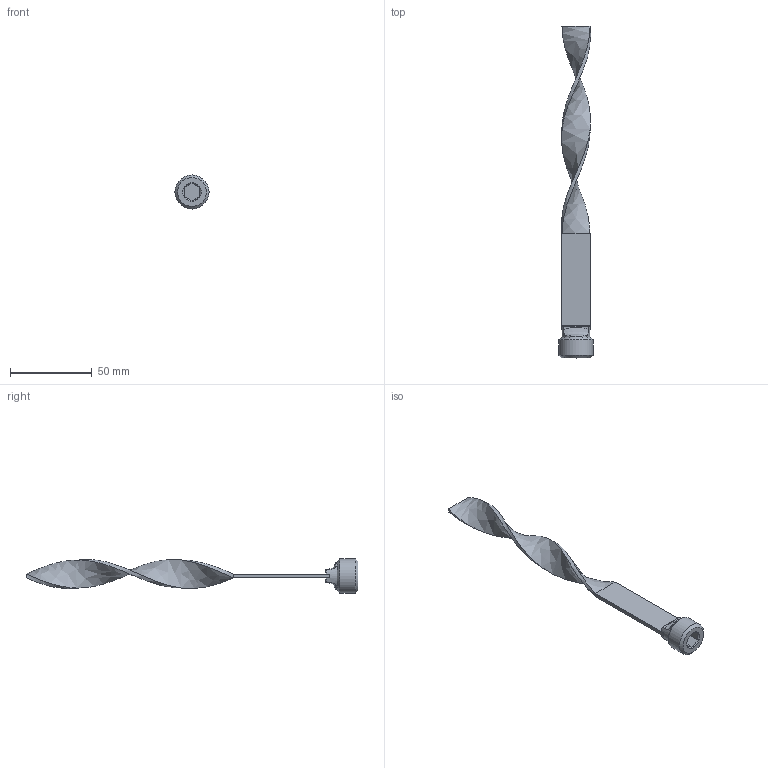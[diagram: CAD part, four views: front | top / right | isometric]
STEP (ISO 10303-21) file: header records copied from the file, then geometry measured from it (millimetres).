
FILE_DESCRIPTION(/* description */ (''),/* implementation_level */ '2;1');
FILE_NAME(/* name */ 'C:/Users/drich/Desktop/TB12X8 v2.step',/* time_stamp */ '2020-01-14T09:02:17-06:00',/* author */ (''),/* organization */ (''),/* preprocessor_version */ 'ST-DEVELOPER v18',/* originating_system */ 'Autodesk Translation Framework v8.12.0.6',/* authorisation */ '');
FILE_SCHEMA (('AUTOMOTIVE_DESIGN { 1 0 10303 214 3 1 1 }'));
Length unit declared in the file: inch
Products named in the file (1): TB12X8
Bounding box: 20.81 x 203.2 x 20.81 mm (x, y, z)
Volume: 11831.6 mm3; surface area: 9392.9 mm2
Topology: 1 solids, 1 shells, 39 faces, 99 edges, 64 vertices
Faces by surface type: plane 18, bspline 6, cylinder 6, torus 6, cone 3
Full cylindrical faces by diameter (mm): 17.018 x1, 20.813 x1
Entity records: 1918 total; most frequent: CARTESIAN_POINT 982, ORIENTED_EDGE 198, DIRECTION 169, EDGE_CURVE 99, VERTEX_POINT 64, AXIS2_PLACEMENT_3D 62, LINE 45, VECTOR 45
